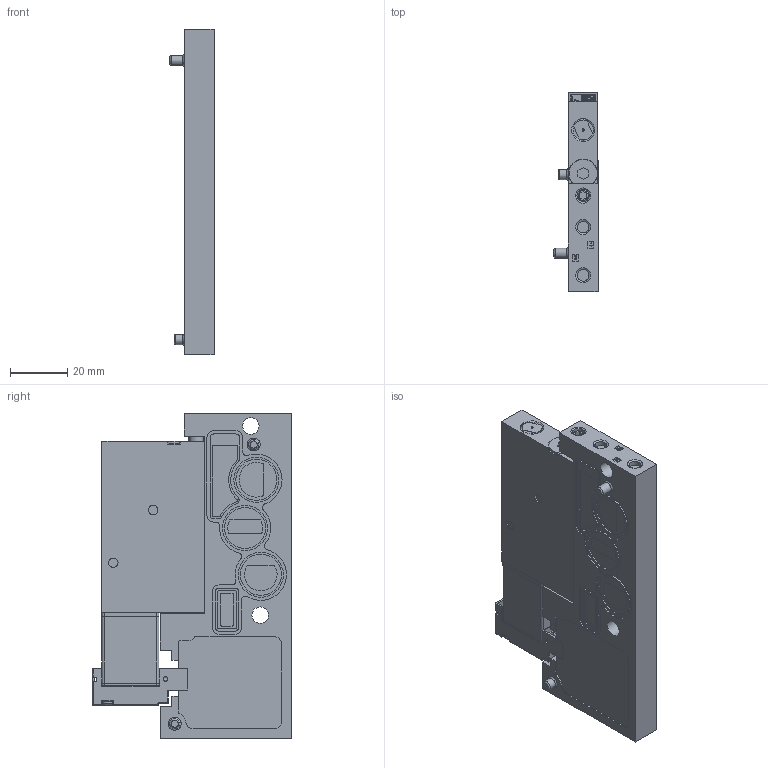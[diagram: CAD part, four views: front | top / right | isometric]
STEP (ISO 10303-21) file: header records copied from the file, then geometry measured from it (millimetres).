
FILE_DESCRIPTION (( 'STEP AP214' ), '1' );
FILE_NAME ('42 SGL CENT.STEP', '2019-09-16T18:06:32', ( 'user' ), ( '' ), 'SwSTEP 2.0', 'SolidWorks 2014', '' );
FILE_SCHEMA (( 'AUTOMOTIVE_DESIGN' ));
Length unit declared in the file: millimetre
Products named in the file (3): 42A-000-BJ1(SC); 42 SGL CENT; 42A-AMA-000-GXXP-1DA(SC)
Assembly tree (2 placements, depth 2):
  42 SGL CENT
    42A-000-BJ1(SC)
    42A-AMA-000-GXXP-1DA(SC)
Bounding box: 15.5 x 69.85 x 114 mm (x, y, z)
Volume: 67166.2 mm3; surface area: 29352.1 mm2
Topology: 14 solids, 15 shells, 1728 faces, 4378 edges, 2798 vertices
Faces by surface type: plane 1116, cylinder 480, bspline 93, cone 39
Full cylindrical faces by diameter (mm): 0.74 x1, 0.75 x1, 0.95 x2, 1 x2, 1.43 x1, 1.5 x4, 1.52 x1, 1.65 x2, 1.7 x4, 1.75 x2, 1.83 x2, 2 x3, 2.1 x2, 2.18 x2, 2.6 x1, 2.62 x1, 2.95 x1, 3 x1, 3.064 x1, 3.5 x2, 3.57 x1, 3.6 x1, 3.8 x2, 3.97 x1, 4 x3, 4.1 x2, 4.15 x1, 4.31 x1, 5 x3, 5.8 x2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
Entity records: 72938 total; most frequent: CARTESIAN_POINT 12443, ORIENTED_EDGE 8450, DIRECTION 8422, EDGE_CURVE 4225, LINE 3050, VECTOR 3050, VERTEX_POINT 2779, AXIS2_PLACEMENT_3D 2686
